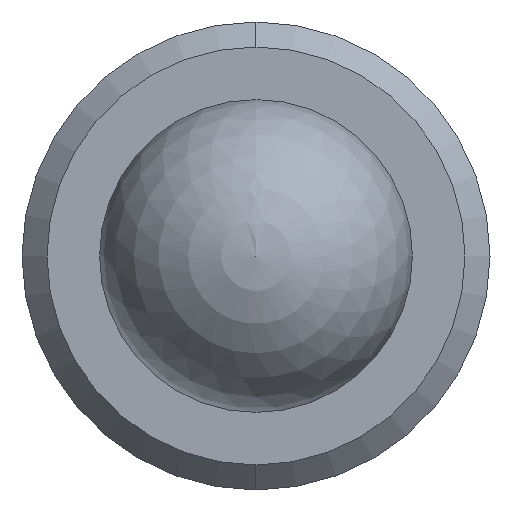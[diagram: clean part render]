
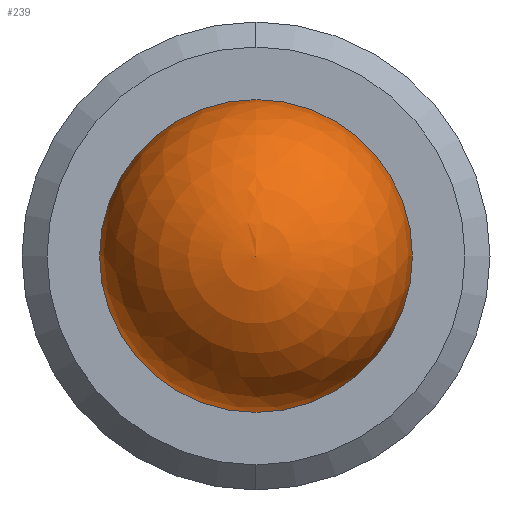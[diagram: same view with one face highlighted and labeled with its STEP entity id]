
A CAD part, left-side view. The second image highlights one B-rep face of the part: STEP entity #239.
In plain terms, the highlighted spherical face has radius 1.587 mm.
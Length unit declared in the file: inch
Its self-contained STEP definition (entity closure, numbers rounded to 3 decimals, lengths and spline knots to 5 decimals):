
#27 = DIRECTION ( 'NONE',  ( 0., 0., 1. ) ) ;
#34 = SPHERICAL_SURFACE ( 'NONE', #267, 0.0625 ) ;
#38 = FACE_OUTER_BOUND ( 'NONE', #92, .T. ) ;
#60 = EDGE_CURVE ( 'NONE', #430, #151, #112, .T. ) ;
#84 = EDGE_CURVE ( 'NONE', #430, #151, #97, .T. ) ;
#92 = EDGE_LOOP ( 'NONE', ( #210, #398 ) ) ;
#97 = CIRCLE ( 'NONE', #342, 0.0625 ) ;
#112 = CIRCLE ( 'NONE', #367, 0.0625 ) ;
#151 = VERTEX_POINT ( 'NONE', #542 ) ;
#160 = CARTESIAN_POINT ( 'NONE',  ( 0., 0., 0. ) ) ;
#210 = ORIENTED_EDGE ( 'NONE', *, *, #84, .F. ) ;
#211 = CARTESIAN_POINT ( 'NONE',  ( 0., 0.0625, 0. ) ) ;
#223 = DIRECTION ( 'NONE',  ( -1., 0., 0. ) ) ;
#239 = ADVANCED_FACE ( 'NONE', ( #38 ), #34, .T. ) ;
#267 = AXIS2_PLACEMENT_3D ( 'NONE', #160, #223, #544 ) ;
#268 = DIRECTION ( 'NONE',  ( 1., 0., 0. ) ) ;
#342 = AXIS2_PLACEMENT_3D ( 'NONE', #540, #268, #574 ) ;
#358 = DIRECTION ( 'NONE',  ( -1., 0., 0. ) ) ;
#367 = AXIS2_PLACEMENT_3D ( 'NONE', #610, #358, #27 ) ;
#398 = ORIENTED_EDGE ( 'NONE', *, *, #60, .T. ) ;
#430 = VERTEX_POINT ( 'NONE', #211 ) ;
#540 = CARTESIAN_POINT ( 'NONE',  ( 0., 0., 0. ) ) ;
#542 = CARTESIAN_POINT ( 'NONE',  ( 0., -0.0625, 0. ) ) ;
#544 = DIRECTION ( 'NONE',  ( 0., 0., 1. ) ) ;
#574 = DIRECTION ( 'NONE',  ( 0., 0., -1. ) ) ;
#610 = CARTESIAN_POINT ( 'NONE',  ( 0., 0., 0. ) ) ;
